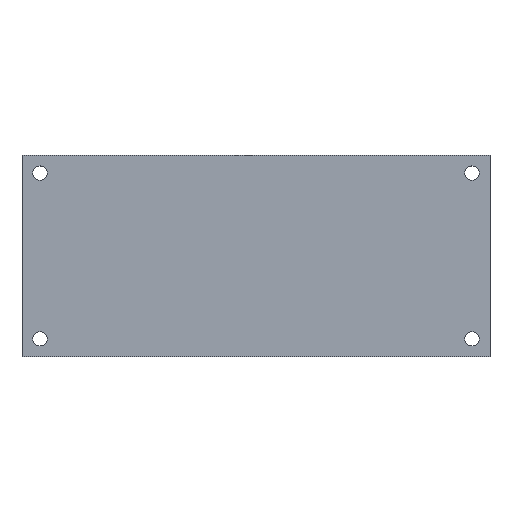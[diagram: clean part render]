
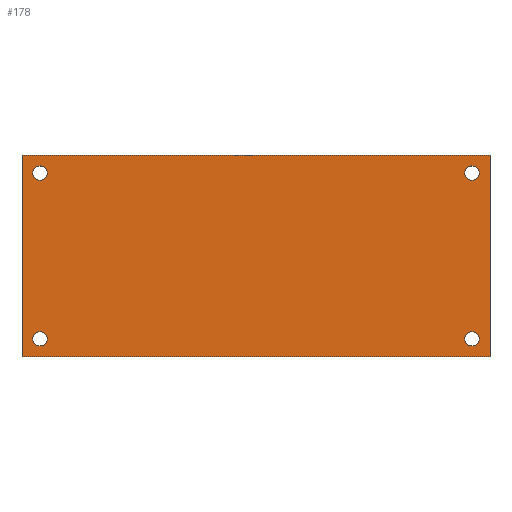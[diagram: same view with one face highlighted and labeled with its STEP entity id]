
A CAD part, top view. The second image highlights one B-rep face of the part: STEP entity #178.
In plain terms, the highlighted planar face has unit normal (0, 0, 1).
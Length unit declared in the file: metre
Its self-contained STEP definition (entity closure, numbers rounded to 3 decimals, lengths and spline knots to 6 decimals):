
#16=CIRCLE('',#202,0.001);
#17=CIRCLE('',#203,0.001);
#18=CIRCLE('',#204,0.001);
#19=CIRCLE('',#205,0.001);
#40=ORIENTED_EDGE('',*,*,#76,.T.);
#41=ORIENTED_EDGE('',*,*,#77,.T.);
#42=ORIENTED_EDGE('',*,*,#78,.T.);
#43=ORIENTED_EDGE('',*,*,#79,.T.);
#44=ORIENTED_EDGE('',*,*,#66,.F.);
#45=ORIENTED_EDGE('',*,*,#70,.F.);
#46=ORIENTED_EDGE('',*,*,#73,.F.);
#47=ORIENTED_EDGE('',*,*,#75,.T.);
#66=EDGE_CURVE('',#86,#87,#102,.T.);
#70=EDGE_CURVE('',#89,#86,#106,.T.);
#73=EDGE_CURVE('',#91,#89,#109,.T.);
#75=EDGE_CURVE('',#91,#87,#111,.T.);
#76=EDGE_CURVE('',#92,#92,#16,.T.);
#77=EDGE_CURVE('',#93,#93,#17,.T.);
#78=EDGE_CURVE('',#94,#94,#18,.T.);
#79=EDGE_CURVE('',#95,#95,#19,.T.);
#86=VERTEX_POINT('',#271);
#87=VERTEX_POINT('',#273);
#89=VERTEX_POINT('',#279);
#91=VERTEX_POINT('',#285);
#92=VERTEX_POINT('',#292);
#93=VERTEX_POINT('',#294);
#94=VERTEX_POINT('',#296);
#95=VERTEX_POINT('',#298);
#102=LINE('',#272,#114);
#106=LINE('',#280,#118);
#109=LINE('',#286,#121);
#111=LINE('',#289,#123);
#114=VECTOR('',#221,1.);
#118=VECTOR('',#227,1.);
#121=VECTOR('',#232,1.);
#123=VECTOR('',#236,1.);
#128=EDGE_LOOP('',(#40));
#129=EDGE_LOOP('',(#41));
#130=EDGE_LOOP('',(#42));
#131=EDGE_LOOP('',(#43));
#132=EDGE_LOOP('',(#44,#45,#46,#47));
#150=FACE_BOUND('',#128,.T.);
#151=FACE_BOUND('',#129,.T.);
#152=FACE_BOUND('',#130,.T.);
#153=FACE_BOUND('',#131,.T.);
#154=FACE_BOUND('',#132,.T.);
#172=PLANE('',#201);
#178=ADVANCED_FACE('',(#150,#151,#152,#153,#154),#172,.T.);
#201=AXIS2_PLACEMENT_3D('',#290,#237,#238);
#202=AXIS2_PLACEMENT_3D('',#291,#239,#240);
#203=AXIS2_PLACEMENT_3D('',#293,#241,#242);
#204=AXIS2_PLACEMENT_3D('',#295,#243,#244);
#205=AXIS2_PLACEMENT_3D('',#297,#245,#246);
#221=DIRECTION('',(0.,-1.,0.));
#227=DIRECTION('',(1.,0.,0.));
#232=DIRECTION('',(0.,1.,0.));
#236=DIRECTION('',(1.,0.,0.));
#237=DIRECTION('',(0.,0.,1.));
#238=DIRECTION('',(1.,0.,0.));
#239=DIRECTION('',(0.,0.,-1.));
#240=DIRECTION('',(-1.,0.,0.));
#241=DIRECTION('',(0.,0.,-1.));
#242=DIRECTION('',(-1.,0.,0.));
#243=DIRECTION('',(0.,0.,-1.));
#244=DIRECTION('',(-1.,0.,0.));
#245=DIRECTION('',(0.,0.,-1.));
#246=DIRECTION('',(-1.,0.,0.));
#271=CARTESIAN_POINT('',(0.117133,-0.04337,0.002));
#272=CARTESIAN_POINT('',(0.117133,-0.05737,0.002));
#273=CARTESIAN_POINT('',(0.117133,-0.07137,0.002));
#279=CARTESIAN_POINT('',(0.052133,-0.04337,0.002));
#280=CARTESIAN_POINT('',(0.084633,-0.04337,0.002));
#285=CARTESIAN_POINT('',(0.052133,-0.07137,0.002));
#286=CARTESIAN_POINT('',(0.052133,-0.05237,0.002));
#289=CARTESIAN_POINT('',(0.084633,-0.07137,0.002));
#290=CARTESIAN_POINT('',(0.084633,-0.05737,0.002));
#291=CARTESIAN_POINT('',(0.114633,-0.068869,0.002));
#292=CARTESIAN_POINT('',(0.113633,-0.068869,0.002));
#293=CARTESIAN_POINT('',(0.114633,-0.045869,0.002));
#294=CARTESIAN_POINT('',(0.113633,-0.045869,0.002));
#295=CARTESIAN_POINT('',(0.054633,-0.045869,0.002));
#296=CARTESIAN_POINT('',(0.053633,-0.045869,0.002));
#297=CARTESIAN_POINT('',(0.054633,-0.068869,0.002));
#298=CARTESIAN_POINT('',(0.053633,-0.068869,0.002));
